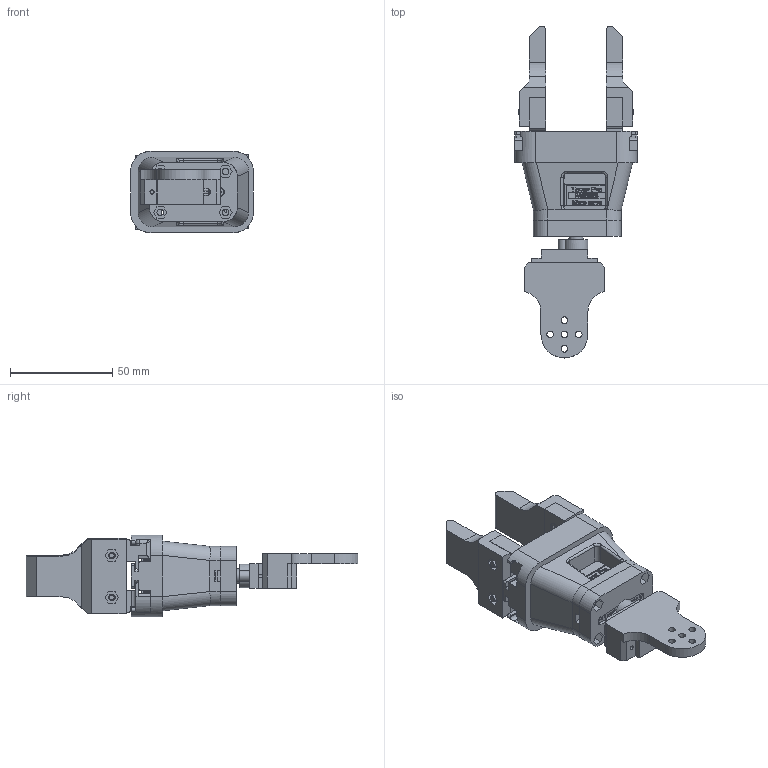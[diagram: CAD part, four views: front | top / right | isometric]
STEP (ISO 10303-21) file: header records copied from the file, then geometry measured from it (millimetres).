
FILE_DESCRIPTION(/* description */ (''),/* implementation_level */ '2;1');
FILE_NAME(/* name */ 'gripper v3 light.stp',/* time_stamp */ '2025-06-18T16:33:56+02:00',/* author */ ('R5800u'),/* organization */ (''),/* preprocessor_version */ 'ST-DEVELOPER v20',/* originating_system */ 'Autodesk Inventor 2025',/* authorisation */ '');
FILE_SCHEMA (('AUTOMOTIVE_DESIGN { 1 0 10303 214 3 1 1 }'));
Products named in the file (16): gripper; gripper_rail_base; gripper_finger; gripper_base_plate; link2_MG90; MG90S_assieme_disco_ldb2; MG90_ldb; scritta_MG90s; MG90S 9g Micro Servo Medium Horn 12 holes; MG90S 9g Micro Servo Medium Horn 12 holes 2; blocco_giunto_polso; gripper_spur_gear v2; dito1; BS 4168 - M2,5 x 10; AS 1420 - 1973 - M3 x 10; AS 1427 - M2 x 12
Assembly tree (23 placements, depth 3):
  gripper
    gripper_rail_base
    gripper_finger  x2
    gripper_base_plate
    MG90S_assieme_disco_ldb2  x2
      MG90_ldb
      scritta_MG90s
    link2_MG90
    MG90S 9g Micro Servo Medium Horn 12 holes
    MG90S 9g Micro Servo Medium Horn 12 holes 2
    blocco_giunto_polso
    gripper_spur_gear v2
    dito1  x2
    AS 1420 - 1973 - M3 x 10  x5
    BS 4168 - M2,5 x 10
    AS 1427 - M2 x 12
Bounding box: 60 x 162.44 x 40 mm (x, y, z)
Volume: 109055.2 mm3; surface area: 56414.1 mm2
Topology: 24 solids, 24 shells, 1578 faces, 5381 edges, 3997 vertices
Faces by surface type: plane 1096, cylinder 369, bspline 62, cone 28, torus 21, sphere 2
Full cylindrical faces by diameter (mm): 1.03 x18, 1.167 x6, 1.5 x2, 1.7 x6, 1.755 x1, 2 x5, 2.2 x2, 2.47 x2, 2.5 x2, 2.7 x1, 3 x7, 3.2 x25, 3.5 x1, 4 x1, 4.5 x1, 4.69 x2, 4.8 x2, 5.5 x10, 5.8 x4, 6.86 x2, 23 x1
Entity records: 70199 total; most frequent: CARTESIAN_POINT 42613, ORIENTED_EDGE 5928, DIRECTION 5153, EDGE_CURVE 2964, VERTEX_POINT 2073, LINE 1951, VECTOR 1951, AXIS2_PLACEMENT_3D 1601
